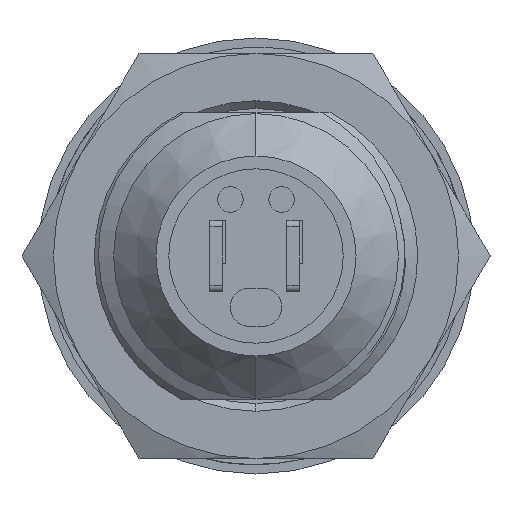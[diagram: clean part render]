
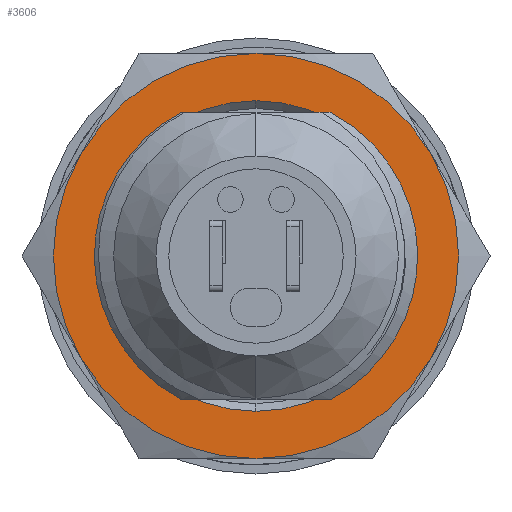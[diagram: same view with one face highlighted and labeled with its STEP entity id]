
A CAD part, left-side view. The second image highlights one B-rep face of the part: STEP entity #3606.
In plain terms, the highlighted planar face has unit normal (-1, 0, 0) as drawn and (0, 0, 1) by its records, which use the part's own axes.
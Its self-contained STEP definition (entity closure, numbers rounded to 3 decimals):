
#114 = VERTEX_POINT ( 'NONE', #970 ) ;
#623 = DIRECTION ( 'NONE',  ( 1., 0., 0. ) ) ;
#956 = AXIS2_PLACEMENT_3D ( 'NONE', #24014, #23784, #49761 ) ;
#970 = CARTESIAN_POINT ( 'NONE',  ( 6.054, 0., 1.5 ) ) ;
#3447 = FACE_OUTER_BOUND ( 'NONE', #68542, .T. ) ;
#3460 = CIRCLE ( 'NONE', #53790, 7.898 ) ;
#3606 = ADVANCED_FACE ( 'NONE', ( #8481, #3447 ), #31315, .T. ) ;
#5387 = CARTESIAN_POINT ( 'NONE',  ( 7.898, 0., 1.5 ) ) ;
#5558 = DIRECTION ( 'NONE',  ( 0., 0., 1. ) ) ;
#5606 = EDGE_CURVE ( 'NONE', #114, #37208, #50251, .T. ) ;
#7259 = CARTESIAN_POINT ( 'NONE',  ( -6.054, 0., 1.5 ) ) ;
#7824 = AXIS2_PLACEMENT_3D ( 'NONE', #68913, #36925, #47902 ) ;
#8481 = FACE_BOUND ( 'NONE', #58322, .T. ) ;
#9346 = DIRECTION ( 'NONE',  ( 1., 0., 0. ) ) ;
#12970 = AXIS2_PLACEMENT_3D ( 'NONE', #14477, #14934, #9346 ) ;
#14477 = CARTESIAN_POINT ( 'NONE',  ( 0., 0., 1.5 ) ) ;
#14934 = DIRECTION ( 'NONE',  ( 0., 0., 1. ) ) ;
#19463 = VERTEX_POINT ( 'NONE', #5387 ) ;
#20346 = DIRECTION ( 'NONE',  ( 1., 0., 0. ) ) ;
#22539 = ORIENTED_EDGE ( 'NONE', *, *, #46937, .T. ) ;
#23784 = DIRECTION ( 'NONE',  ( 0., 0., -1. ) ) ;
#24014 = CARTESIAN_POINT ( 'NONE',  ( 0., 0., 1.5 ) ) ;
#31315 = PLANE ( 'NONE',  #12970 ) ;
#31376 = CARTESIAN_POINT ( 'NONE',  ( 0., 0., 1.5 ) ) ;
#32836 = EDGE_CURVE ( 'NONE', #19463, #47422, #3460, .T. ) ;
#33514 = CIRCLE ( 'NONE', #956, 6.054 ) ;
#35601 = EDGE_CURVE ( 'NONE', #37208, #114, #33514, .T. ) ;
#36925 = DIRECTION ( 'NONE',  ( 0., 0., 1. ) ) ;
#37208 = VERTEX_POINT ( 'NONE', #7259 ) ;
#38148 = ORIENTED_EDGE ( 'NONE', *, *, #35601, .T. ) ;
#40101 = ORIENTED_EDGE ( 'NONE', *, *, #5606, .T. ) ;
#42368 = DIRECTION ( 'NONE',  ( 0., 0., -1. ) ) ;
#43010 = CARTESIAN_POINT ( 'NONE',  ( -7.898, 0., 1.5 ) ) ;
#46937 = EDGE_CURVE ( 'NONE', #47422, #19463, #54950, .T. ) ;
#47422 = VERTEX_POINT ( 'NONE', #43010 ) ;
#47902 = DIRECTION ( 'NONE',  ( 1., 0., 0. ) ) ;
#49761 = DIRECTION ( 'NONE',  ( 1., 0., 0. ) ) ;
#50251 = CIRCLE ( 'NONE', #53401, 6.054 ) ;
#51055 = ORIENTED_EDGE ( 'NONE', *, *, #32836, .T. ) ;
#53401 = AXIS2_PLACEMENT_3D ( 'NONE', #31376, #42368, #20346 ) ;
#53790 = AXIS2_PLACEMENT_3D ( 'NONE', #69338, #5558, #623 ) ;
#54950 = CIRCLE ( 'NONE', #7824, 7.898 ) ;
#58322 = EDGE_LOOP ( 'NONE', ( #40101, #38148 ) ) ;
#68542 = EDGE_LOOP ( 'NONE', ( #22539, #51055 ) ) ;
#68913 = CARTESIAN_POINT ( 'NONE',  ( 0., 0., 1.5 ) ) ;
#69338 = CARTESIAN_POINT ( 'NONE',  ( 0., 0., 1.5 ) ) ;
